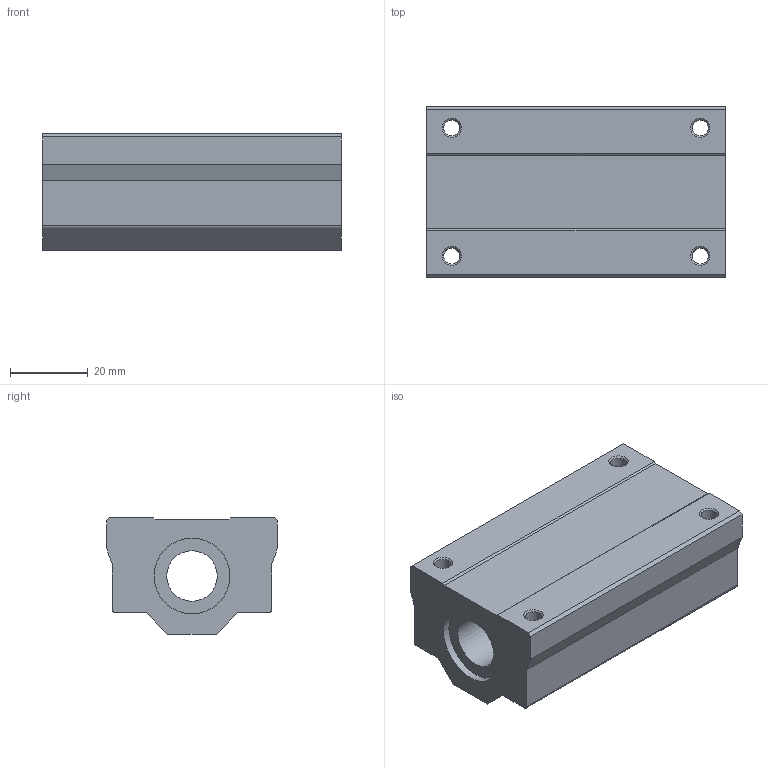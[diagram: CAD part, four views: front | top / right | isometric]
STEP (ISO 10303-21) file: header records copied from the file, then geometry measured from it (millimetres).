
FILE_DESCRIPTION( ( 'Unknown' ), '1' );
FILE_NAME( 'D:/累诀/己绕皋墨飘肺葱胶/11-04-06_档搁累己/01_府聪绢何教/SC W/SC 13W.stp', 'Unknown', ( 'Unknown' ), ( 'Unknown' ), 'PSStep 11.0', 'Unknown', ' ' );
FILE_SCHEMA( ( 'AUTOMOTIVE_DESIGN { 1 0 10303 214 1 1 1 1 }' ) );
Length unit declared in the file: millimetre
Products named in the file (1): 1
Bounding box: 77 x 44 x 30 mm (x, y, z)
Volume: 74385.2 mm3; surface area: 16968.5 mm2
Topology: 1 solids, 1 shells, 39 faces, 109 edges, 74 vertices
Faces by surface type: plane 22, cylinder 13, cone 4
Full cylindrical faces by diameter (mm): 4.134 x8, 13 x1, 19.55 x2
Entity records: 1426 total; most frequent: DIRECTION 188, CARTESIAN_POINT 184, ORIENTED_EDGE 164, EDGE_CURVE 82, AXIS2_PLACEMENT_3D 66, EDGE_LOOP 66, VERTEX_POINT 62, LINE 56
